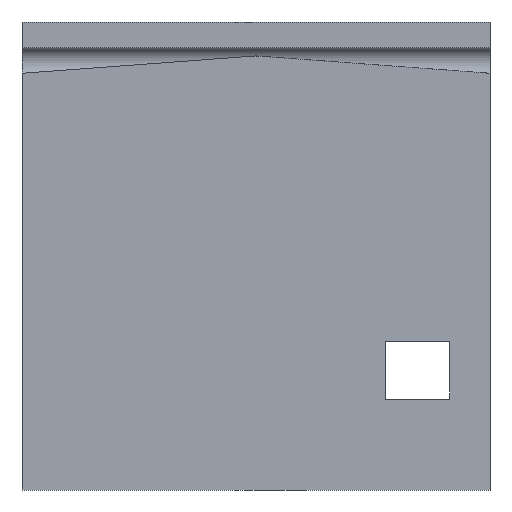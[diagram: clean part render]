
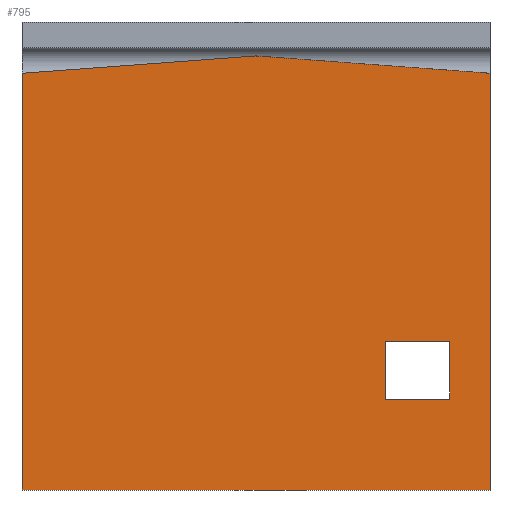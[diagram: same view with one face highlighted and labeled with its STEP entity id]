
A CAD part, left-side view. The second image highlights one B-rep face of the part: STEP entity #795.
In plain terms, the highlighted planar face has unit normal (-1, 0, 0).
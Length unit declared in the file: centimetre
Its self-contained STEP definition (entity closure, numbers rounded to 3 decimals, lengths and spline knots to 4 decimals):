
#19 = ORIENTED_EDGE ( 'NONE', *, *, #98, .F. ) ;
#47 = LINE ( 'NONE', #473, #87 ) ;
#55 = EDGE_CURVE ( 'NONE', #994, #1113, #480, .T. ) ;
#73 = EDGE_CURVE ( 'NONE', #1113, #640, #47, .T. ) ;
#79 = CARTESIAN_POINT ( 'NONE',  ( 0., 500., 927.4383 ) ) ;
#87 = VECTOR ( 'NONE', #803, 100. ) ;
#88 = LINE ( 'NONE', #102, #597 ) ;
#89 = ORIENTED_EDGE ( 'NONE', *, *, #941, .F. ) ;
#98 = EDGE_CURVE ( 'NONE', #206, #447, #277, .T. ) ;
#102 = CARTESIAN_POINT ( 'NONE',  ( 0., 1000., 890.5145 ) ) ;
#135 = CARTESIAN_POINT ( 'NONE',  ( 0., 1000., 0. ) ) ;
#153 = CARTESIAN_POINT ( 'NONE',  ( 0., 0., 0. ) ) ;
#206 = VERTEX_POINT ( 'NONE', #294 ) ;
#229 = VERTEX_POINT ( 'NONE', #740 ) ;
#251 = EDGE_CURVE ( 'NONE', #631, #1272, #1359, .T. ) ;
#270 = CARTESIAN_POINT ( 'NONE',  ( 0., 1000., 0. ) ) ;
#277 = LINE ( 'NONE', #394, #471 ) ;
#294 = CARTESIAN_POINT ( 'NONE',  ( 0., 0., 890.5145 ) ) ;
#316 = ORIENTED_EDGE ( 'NONE', *, *, #1064, .F. ) ;
#333 = VECTOR ( 'NONE', #567, 100. ) ;
#342 = ORIENTED_EDGE ( 'NONE', *, *, #55, .F. ) ;
#366 = CARTESIAN_POINT ( 'NONE',  ( 0., 86.3782, 194.2071 ) ) ;
#386 = LINE ( 'NONE', #1248, #1182 ) ;
#394 = CARTESIAN_POINT ( 'NONE',  ( 0., 0., 1000. ) ) ;
#404 = VECTOR ( 'NONE', #1042, 100. ) ;
#409 = EDGE_LOOP ( 'NONE', ( #19, #910, #589, #448, #815 ) ) ;
#447 = VERTEX_POINT ( 'NONE', #153 ) ;
#448 = ORIENTED_EDGE ( 'NONE', *, *, #251, .T. ) ;
#462 = DIRECTION ( 'NONE',  ( 0., -0.997, -0.074 ) ) ;
#471 = VECTOR ( 'NONE', #1238, 100. ) ;
#473 = CARTESIAN_POINT ( 'NONE',  ( 0., 86.3782, 194.2071 ) ) ;
#480 = LINE ( 'NONE', #902, #622 ) ;
#487 = DIRECTION ( 'NONE',  ( 0., 1., 0. ) ) ;
#494 = CARTESIAN_POINT ( 'NONE',  ( 0., 223.9668, 194.2071 ) ) ;
#522 = FACE_BOUND ( 'NONE', #557, .T. ) ;
#557 = EDGE_LOOP ( 'NONE', ( #89, #1158, #342, #316 ) ) ;
#567 = DIRECTION ( 'NONE',  ( 0., -1., 0. ) ) ;
#581 = CARTESIAN_POINT ( 'NONE',  ( 0., 223.9668, 318.1081 ) ) ;
#589 = ORIENTED_EDGE ( 'NONE', *, *, #1216, .F. ) ;
#597 = VECTOR ( 'NONE', #727, 100. ) ;
#622 = VECTOR ( 'NONE', #1013, 100. ) ;
#623 = CARTESIAN_POINT ( 'NONE',  ( 0., 1000., 1000. ) ) ;
#631 = VERTEX_POINT ( 'NONE', #1241 ) ;
#640 = VERTEX_POINT ( 'NONE', #1251 ) ;
#645 = VECTOR ( 'NONE', #462, 100. ) ;
#727 = DIRECTION ( 'NONE',  ( 0., -0.997, 0.074 ) ) ;
#728 = VECTOR ( 'NONE', #1122, 100. ) ;
#740 = CARTESIAN_POINT ( 'NONE',  ( 0., 86.3782, 318.1081 ) ) ;
#754 = FACE_OUTER_BOUND ( 'NONE', #409, .T. ) ;
#778 = AXIS2_PLACEMENT_3D ( 'NONE', #839, #866, #1168 ) ;
#795 = ADVANCED_FACE ( 'NONE', ( #522, #754 ), #1186, .F. ) ;
#803 = DIRECTION ( 'NONE',  ( 0., -1., 0. ) ) ;
#815 = ORIENTED_EDGE ( 'NONE', *, *, #937, .T. ) ;
#839 = CARTESIAN_POINT ( 'NONE',  ( 0., 1000., 1000. ) ) ;
#866 = DIRECTION ( 'NONE',  ( 1., 0., 0. ) ) ;
#881 = CARTESIAN_POINT ( 'NONE',  ( 0., 500., 927.4383 ) ) ;
#899 = EDGE_CURVE ( 'NONE', #1184, #206, #1320, .T. ) ;
#902 = CARTESIAN_POINT ( 'NONE',  ( 0., 223.9668, 194.2071 ) ) ;
#910 = ORIENTED_EDGE ( 'NONE', *, *, #899, .F. ) ;
#937 = EDGE_CURVE ( 'NONE', #1272, #447, #1333, .T. ) ;
#941 = EDGE_CURVE ( 'NONE', #640, #229, #1329, .T. ) ;
#994 = VERTEX_POINT ( 'NONE', #581 ) ;
#1013 = DIRECTION ( 'NONE',  ( 0., 0., -1. ) ) ;
#1042 = DIRECTION ( 'NONE',  ( 0., 0., -1. ) ) ;
#1064 = EDGE_CURVE ( 'NONE', #229, #994, #386, .T. ) ;
#1113 = VERTEX_POINT ( 'NONE', #494 ) ;
#1122 = DIRECTION ( 'NONE',  ( 0., 0., 1. ) ) ;
#1158 = ORIENTED_EDGE ( 'NONE', *, *, #73, .F. ) ;
#1168 = DIRECTION ( 'NONE',  ( 0., 0., -1. ) ) ;
#1182 = VECTOR ( 'NONE', #487, 100. ) ;
#1184 = VERTEX_POINT ( 'NONE', #79 ) ;
#1186 = PLANE ( 'NONE',  #778 ) ;
#1216 = EDGE_CURVE ( 'NONE', #631, #1184, #88, .T. ) ;
#1238 = DIRECTION ( 'NONE',  ( 0., 0., -1. ) ) ;
#1241 = CARTESIAN_POINT ( 'NONE',  ( 0., 1000., 890.5145 ) ) ;
#1248 = CARTESIAN_POINT ( 'NONE',  ( 0., 86.3782, 318.1081 ) ) ;
#1251 = CARTESIAN_POINT ( 'NONE',  ( 0., 86.3782, 194.2071 ) ) ;
#1272 = VERTEX_POINT ( 'NONE', #135 ) ;
#1320 = LINE ( 'NONE', #881, #645 ) ;
#1329 = LINE ( 'NONE', #366, #728 ) ;
#1333 = LINE ( 'NONE', #270, #333 ) ;
#1359 = LINE ( 'NONE', #623, #404 ) ;
